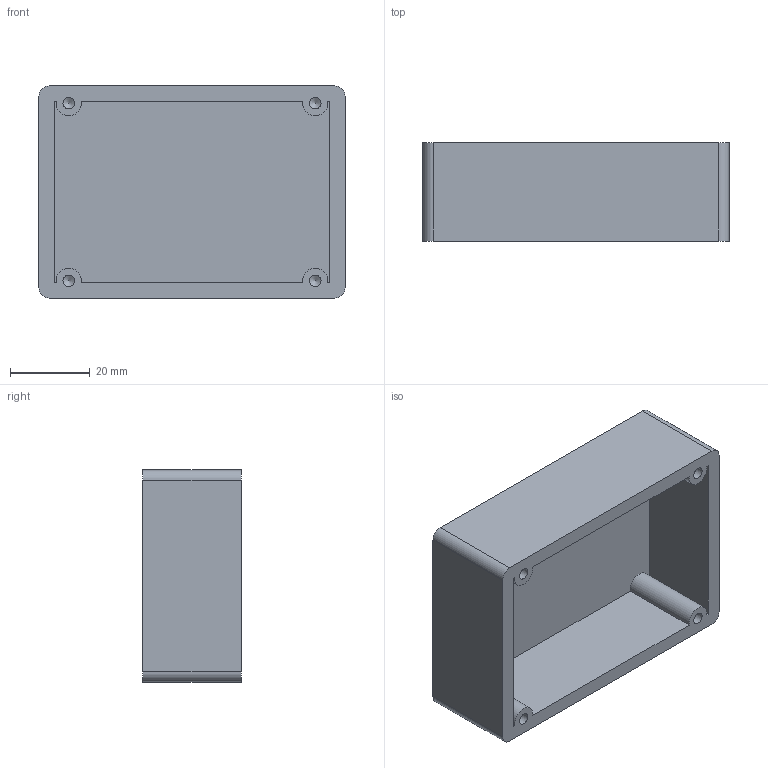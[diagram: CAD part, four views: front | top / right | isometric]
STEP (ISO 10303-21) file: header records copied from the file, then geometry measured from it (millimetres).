
FILE_DESCRIPTION (( 'STEP AP203' ), '1' );
FILE_NAME ('Battery Well.step', '2015-03-14T23:35:39', ( '' ), ( '' ), 'SwSTEP 2.0', 'SolidWorks 2013', '' );
FILE_SCHEMA (( 'CONFIG_CONTROL_DESIGN' ));
Length unit declared in the file: inch
Products named in the file (1): Battery Well
Bounding box: 76.96 x 24.77 x 53.34 mm (x, y, z)
Volume: 36473.6 mm3; surface area: 20050.2 mm2
Topology: 1 solids, 1 shells, 31 faces, 80 edges, 52 vertices
Faces by surface type: plane 15, cylinder 12, cone 4
Full cylindrical faces by diameter (mm): 2.946 x4
Entity records: 949 total; most frequent: DIRECTION 156, CARTESIAN_POINT 148, ORIENTED_EDGE 136, EDGE_CURVE 68, AXIS2_PLACEMENT_3D 56, VERTEX_POINT 48, LINE 44, VECTOR 44
